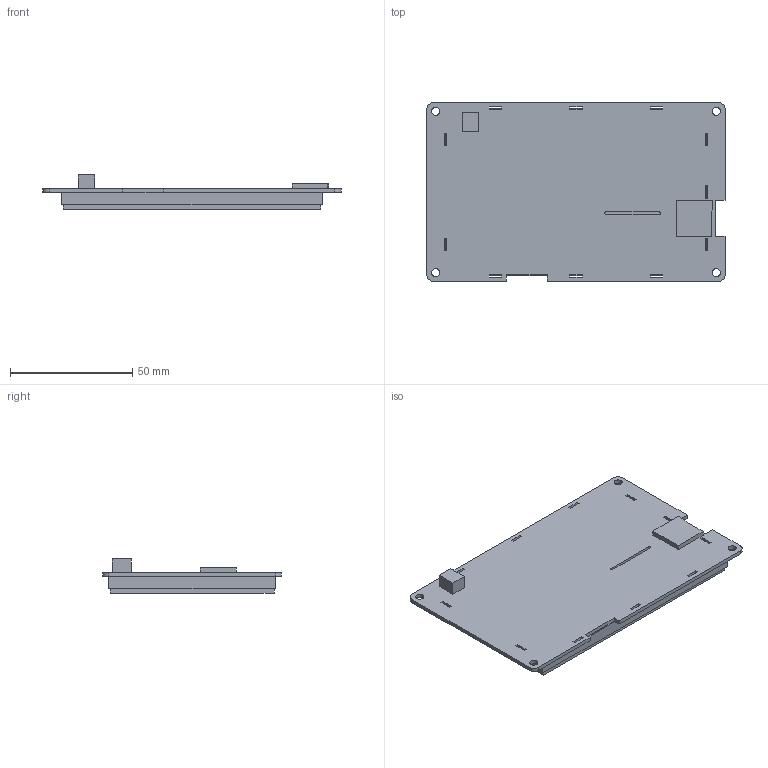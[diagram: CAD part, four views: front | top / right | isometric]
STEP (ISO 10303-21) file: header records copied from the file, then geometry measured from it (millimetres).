
FILE_DESCRIPTION((''),'2;1');
FILE_NAME('3D-DMT48270T043-07WTC','2021-06-11T',('Administrator'),(''),'PRO/ENGINEER BY PARAMETRIC TECHNOLOGY CORPORATION, 2011310','PRO/ENGINEER BY PARAMETRIC TECHNOLOGY CORPORATION, 2011310','');
FILE_SCHEMA(('CONFIG_CONTROL_DESIGN','SHAPE_APPEARANCE_LAYERS_GROUPS'));
Length unit declared in the file: millimetre
Products named in the file (1): 3D-DMT48270T043-07WTC
Bounding box: 121.92 x 73.15 x 14 mm (x, y, z)
Volume: 59859.3 mm3; surface area: 32604.2 mm2
Topology: 1 solids, 4 shells, 133 faces, 366 edges, 236 vertices
Faces by surface type: plane 115, cylinder 18
Entity records: 4355 total; most frequent: CARTESIAN_POINT 735, ORIENTED_EDGE 732, DIRECTION 668, EDGE_CURVE 366, VECTOR 330, LINE 330, VERTEX_POINT 236, AXIS2_PLACEMENT_3D 169
